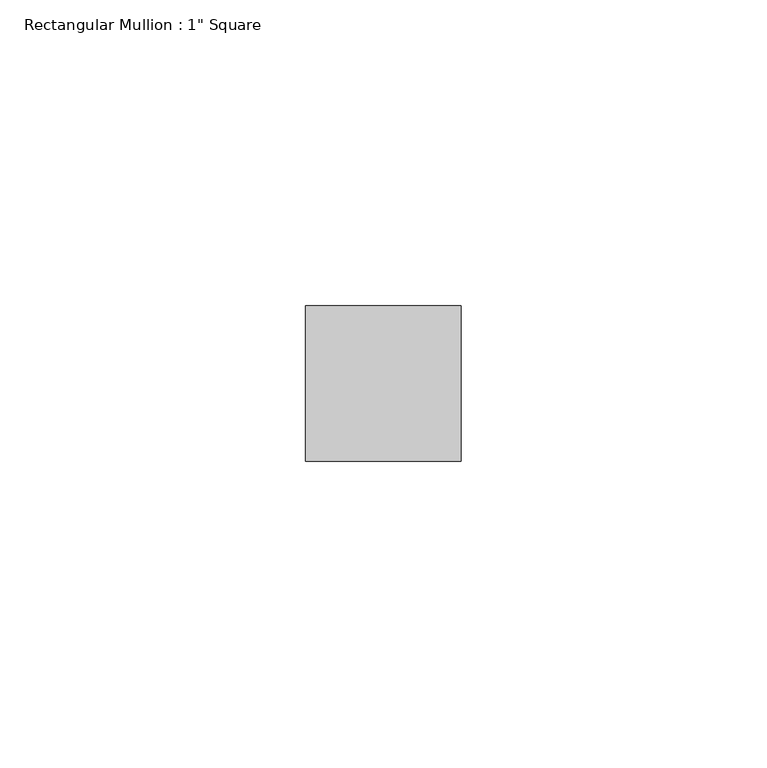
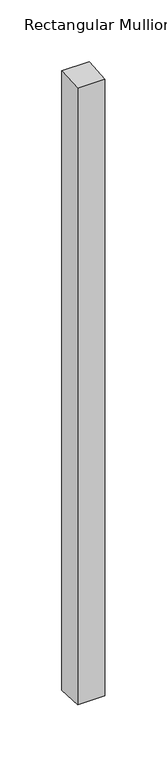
"""IFC4 building model written with IfcOpenShell, lengths in millimetres: member geometry."""

from ifc_helpers import new_model, si_unit, origin, place, context, project, spatial, faceted_brep, source, transform, mapped, element, save


def member_ca6af547(model_context):
    return source(origin(), model_context, "Body", "Brep", [
        faceted_brep([(-25.4, 12.7, 0.731708), (0.0, 12.7, 0.7586218), (0.0, 12.7, -610.3586218), (-25.4, 12.7, -610.331708), (-25.4, -12.7, -0.7855356), (-25.4, -12.7, -608.8144644), (0.0, -12.7, -0.7586218), (0.0, -12.7, -608.8413782)], [[[0, 1, 2, 3]], [[4, 0, 3, 5]], [[6, 4, 5, 7]], [[1, 6, 7, 2]], [[1, 0, 4, 6]], [[2, 7, 5, 3]]]),
    ])


if __name__ == "__main__":
    model = new_model("IFC4")
    model_context = context("Model", 3, world=origin())
    ifc_project = project(units=[si_unit("LENGTHUNIT", "METRE", prefix="MILLI")], contexts=[model_context])
    site = spatial("IfcSite", under=ifc_project)
    building = spatial("IfcBuilding", under=site)
    placement = place(None, origin())
    member_shape = member_ca6af547(model_context)
    element("IfcMember", 1, ObjectType="Rectangular Mullion : 1\" Square", at=placement, inside=building, context=model_context, shape_type="MappedRepresentation", body=[
        mapped(member_shape, transform((0.0, 0.0, 0.0), x_axis=(1.0, 0.0, 0.0), y_axis=(0.0, 1.0, 0.0), z_axis=(0.0, 0.0, 1.0))),
    ])
    save(model, "model.ifc")
